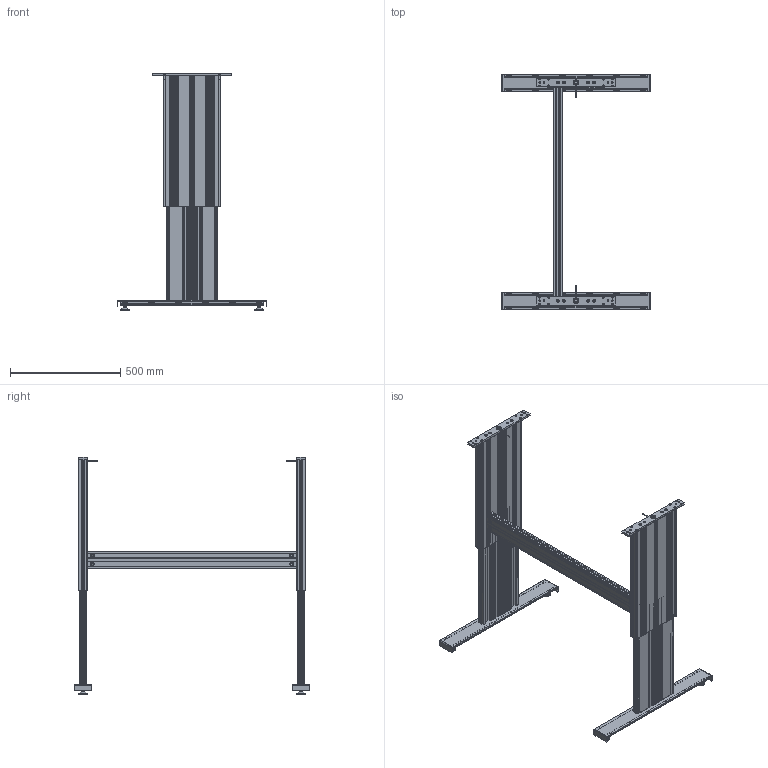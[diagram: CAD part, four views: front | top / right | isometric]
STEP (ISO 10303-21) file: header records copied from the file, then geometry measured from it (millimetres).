
FILE_DESCRIPTION(/* description */ ('Unknown'),/* implementation_level */ '2;1');
FILE_NAME(/* name */ '108.00182 Untergestell TT-2 1440 990_ausgefahren',/* time_stamp */ '2017-11-24T14:40:05+01:00',/* author */ ('Unknown'),/* organization */ ('Unknown'),/* preprocessor_version */ 'ST-DEVELOPER v16.7',/* originating_system */ 'DEX',/* authorisation */ $);
FILE_SCHEMA (('AUTOMOTIVE_DESIGN {1 0 10303 214 3 1 1}'));
Products named in the file (30): 108.00182; 106.00315_oa_0; 119.00201; 119.00152; 124.00004; 142.00188; 142.00166; 142.00031; 126.00102; 107.00027_oa_1; 115.00007_oa_2; 125.00021; 125.00033; 113.00002_70mm; 106.00315_oa_3; 107.00027_oa_4; 115.00007_oa_5; 115.00092; 119.00172; 142.00207; 127.00515; 127.00520; 127.00556; 127.00557; 127.00520_461_469_Kehlnaht 1_oa_6; 113.00095; 113.00099; 113.00096; 113.00097; 113.00098
Assembly tree (52 placements, depth 5):
  108.00182
    106.00315_oa_0
      119.00201
      119.00152
      124.00004
      142.00188  x2
      142.00166  x4
      142.00031
      126.00102
      107.00027_oa_1
        115.00007_oa_2
        125.00021
        125.00033
      113.00002_70mm
    106.00315_oa_3
      119.00201
      119.00152
      124.00004
      142.00188  x2
      142.00166  x4
      142.00031
      126.00102
      107.00027_oa_4
        115.00007_oa_5
        125.00021
        125.00033
      113.00002_70mm
    115.00092
      119.00172
      142.00207  x4
    127.00515  x2
      127.00520
        127.00556
        127.00557
        127.00520_461_469_Kehlnaht 1_oa_6
      113.00095
        113.00099
        113.00096
          113.00097
          113.00098
Bounding box: 680 x 1070 x 1076.5 mm (x, y, z)
Volume: 7126427.8 mm3; surface area: 5118773 mm2
Topology: 73 solids, 81 shells, 4900 faces, 13928 edges, 9258 vertices
Faces by surface type: plane 3044, cylinder 1552, cone 196, torus 76, bspline 24, sphere 8
Full cylindrical faces by diameter (mm): 1.8 x4, 2.2 x2, 2.78 x2, 3.242 x4, 3.5 x2, 4 x6, 4.1 x2, 4.2 x2, 5 x12, 5.5 x8, 6.6 x8, 6.647 x16, 6.917 x4, 7.5 x4, 8 x18, 8.376 x6, 8.5 x20, 8.7 x8, 9 x2, 10 x8, 11.3 x8, 12 x6, 12.5 x10, 13 x4, 13.5 x6, 13.7 x2, 13.9 x4, 18 x16, 25 x10, 27.2 x4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
Entity records: 85503 total; most frequent: CARTESIAN_POINT 14627, ORIENTED_EDGE 13082, DIRECTION 12735, EDGE_CURVE 6541, LINE 4481, VECTOR 4481, VERTEX_POINT 4431, AXIS2_PLACEMENT_3D 4127
